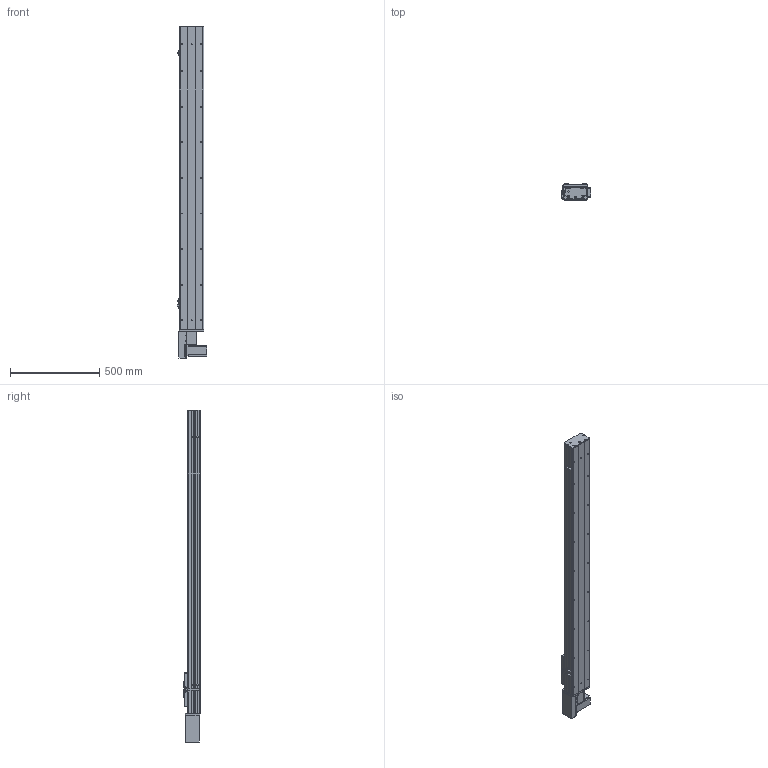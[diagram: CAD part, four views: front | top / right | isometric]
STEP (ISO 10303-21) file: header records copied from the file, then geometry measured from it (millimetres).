
FILE_DESCRIPTION (( 'STEP AP203' ), '1' );
FILE_NAME ('Y135CB-D90-S1400-BR-P400W.STEP', '2020-02-18T02:37:16', ( '微软用户' ), ( '微软中国' ), 'SwSTEP 2.0', 'SolidWorks 2017', '' );
FILE_SCHEMA (( 'CONFIG_CONTROL_DESIGN' ));
Length unit declared in the file: millimetre
Products named in the file (18): 0B-萇儂楊擘啣; 5C--俋欶; san松下电机400不带刹车----; Y135CB-耜裔; C-雄赽釱--; 5CB --掛极耜裔啣-; 135CB---遴掛极.-; Y10B--々湍喘謫眊--666; C-詩湍揤踡え-陔; 35CB---喘謫眊楊擘啣; Y135CB-D90-S1400-BR-P400W; 135CB--詩湍-CE; Y10B-耜蚾蟀諉啣----; Y100-135俋离換覜ん--; Y俋欶BR----; Y135C-陔俋离換覜結え-; 0B-埴倛裔啣; 0B-源倛裔啣
Assembly tree (21 placements, depth 2):
  Y135CB-D90-S1400-BR-P400W
    Y135CB-耜裔
    135CB---遴掛极.-
    35CB---喘謫眊楊擘啣
    Y10B-耜蚾蟀諉啣----
    Y俋欶BR----
    0B-埴倛裔啣
    0B-源倛裔啣
    0B-萇儂楊擘啣
    san松下电机400不带刹车----
    5CB --掛极耜裔啣-  x2
    C-詩湍揤踡え-陔  x2
    135CB--詩湍-CE
    Y100-135俋离換覜ん--  x3
    Y135C-陔俋离換覜結え-
    5C--俋欶
    C-雄赽釱--
    Y10B--々湍喘謫眊--666
Bounding box: 167.5 x 91 x 1864.5 mm (x, y, z)
Volume: 5426066.8 mm3; surface area: 2134334.4 mm2
Topology: 21 solids, 21 shells, 953 faces, 2563 edges, 1698 vertices
Faces by surface type: cylinder 479, plane 458, cone 16
Entity records: 29745 total; most frequent: DIRECTION 4939, CARTESIAN_POINT 4900, ORIENTED_EDGE 4602, EDGE_CURVE 2301, AXIS2_PLACEMENT_3D 1801, VERTEX_POINT 1526, VECTOR 1337, LINE 1337
